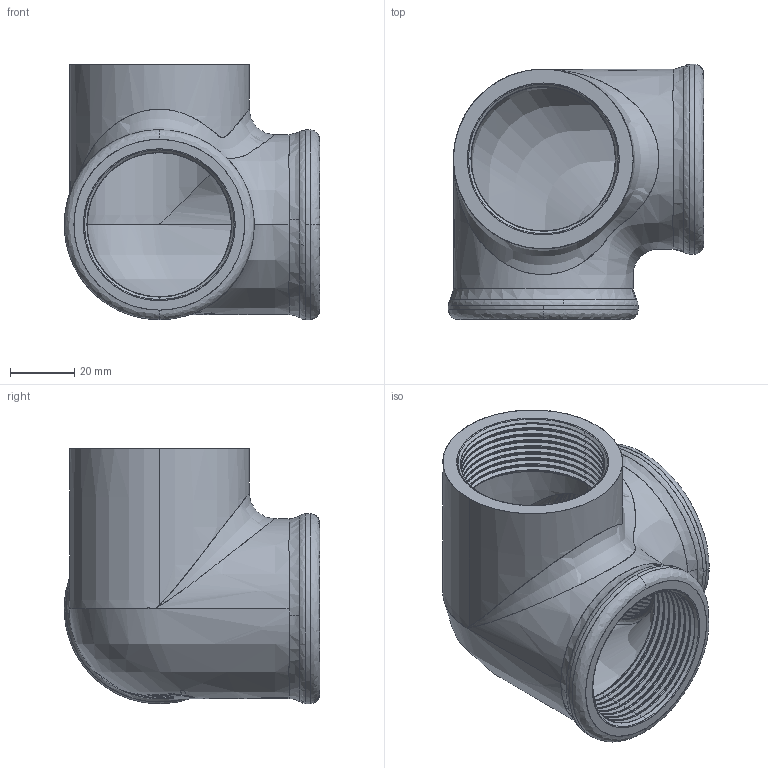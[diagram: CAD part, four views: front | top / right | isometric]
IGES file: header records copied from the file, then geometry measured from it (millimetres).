
Start section: SolidWorks IGES file using analytic representation for surfaces
Global section: file name: C:\Users\Joel Rosa\Desktop\Tubulação\12-15\12-05-009.IGS; native system: SolidWorks 2011; preprocessor: SolidWorks 2011; author: Joel Rosa; date: 130922.221252; units: millimetre
Bounding box: 79.6 x 79.6 x 79.6 mm (x, y, z)
Surface area: 45203.5 mm2 (no closed solid volume)
Topology: 0 solids, 0 shells, 417 faces, 4596 edges, 4593 vertices
Faces by surface type: bspline 298, revolution 119
